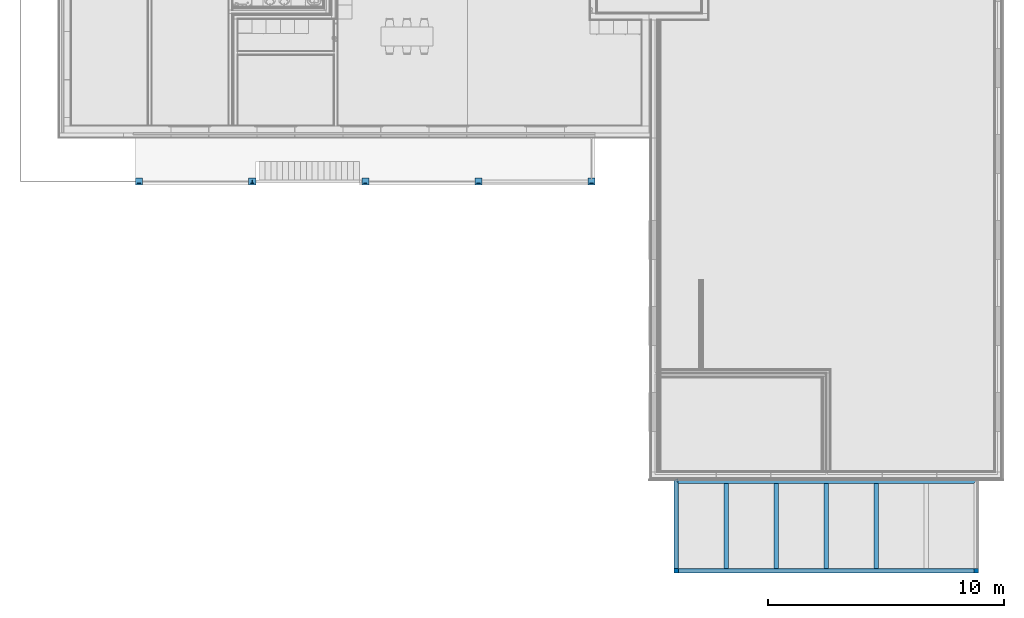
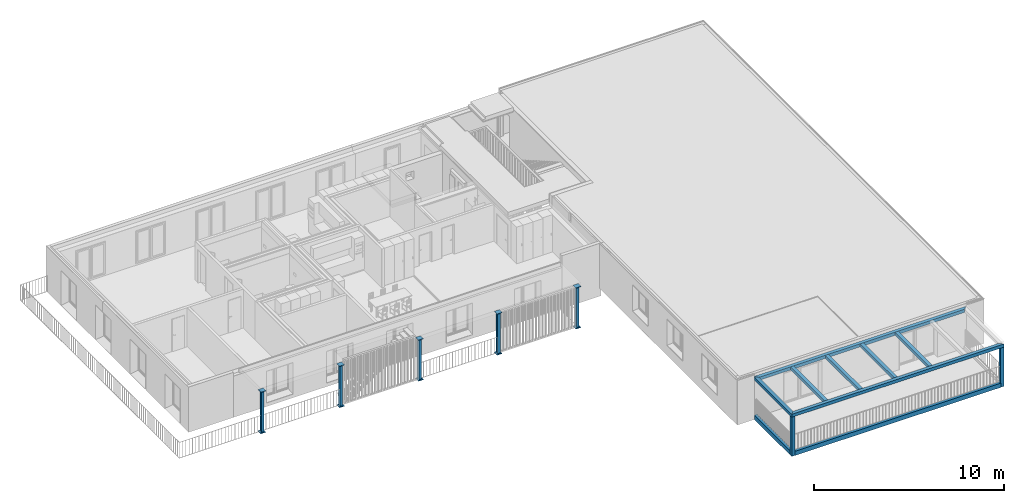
# One storey, part 1 of 34: 9 beams, 7 columns.
"""IFC4 building model written with IfcOpenShell, lengths in millimetres."""

import ifcopenshell
import ifcopenshell.guid

model = None  # the IFC model being written
_history = None  # IfcOwnerHistory: only IFC2X3 demands one
_inside = {}  # id of a spatial element -> (the spatial element, [elements in it])
_under = {}  # id of a project, library or spatial element -> (it, [spatial elements below it])
_declared = {}  # id of a project -> (the project, [libraries it declares])
_typed = {}  # id of a type object -> (the type object, [elements of that type])
_made_of = {}  # id of a material, layer set ... -> (it, [elements and type objects made of it])


def new_model(schema):
    """Start an empty IFC model of exactly this schema.

    Asked for "IFC4X3", IfcOpenShell would pick the latest addendum, in which some entities
    have other attributes; the version numbers below select the first issue.
    IFC2X3 requires an IfcOwnerHistory on every rooted entity: one is made here for all.
    """
    global model, _history
    if schema == "IFC4X3":
        model = ifcopenshell.file(schema_version=(4, 3, 0, 0))
    else:
        model = ifcopenshell.file(schema=schema)
    _inside.clear()
    _under.clear()
    _declared.clear()
    _typed.clear()
    _made_of.clear()
    _history = None
    if model.schema == "IFC2X3":
        org = make("IfcOrganization", Name="unknown")
        user = make(
            "IfcPersonAndOrganization",
            ThePerson=make("IfcPerson", FamilyName="unknown"),
            TheOrganization=org,
        )
        app = make(
            "IfcApplication",
            ApplicationDeveloper=org,
            Version="unknown",
            ApplicationFullName="unknown",
            ApplicationIdentifier="unknown",
        )
        _history = make(
            "IfcOwnerHistory",
            OwningUser=user,
            OwningApplication=app,
            ChangeAction="ADDED",
            CreationDate=0,
        )
    return model


def make(cls, **values):
    """One entity of the class cls with the attributes given. An attribute that is None is left unset."""
    return model.create_entity(
        cls, **{name: value for name, value in values.items() if value is not None}
    )


def entity(cls, *values):
    """Any entity or typed value of the class cls, its attributes in the order of the schema. None: left unset."""
    e = model.create_entity(cls)
    for i, value in enumerate(values):
        if value is not None:
            e[i] = value
    return e


def rooted(cls, **values):
    """An entity with a GlobalId (a new one), such as an element, a storey or a relation."""
    return make(cls, GlobalId=ifcopenshell.guid.new(), OwnerHistory=_history, **values)


def si_unit(unit_type, name, prefix=None):
    """IfcSIUnit, for example si_unit("LENGTHUNIT", "METRE", prefix="MILLI")."""
    return make("IfcSIUnit", UnitType=unit_type, Prefix=prefix, Name=name)


def converted_unit(unit_type, name, factor, base, dimensions=None, offset=None):
    """IfcConversionBasedUnit, such as the inch: factor (a typed value) times the base unit."""
    return make(
        "IfcConversionBasedUnit"
        if offset is None
        else "IfcConversionBasedUnitWithOffset",
        ConversionOffset=offset,
        Dimensions=None
        if dimensions is None
        else entity("IfcDimensionalExponents", *dimensions),
        UnitType=unit_type,
        Name=name,
        ConversionFactor=make(
            "IfcMeasureWithUnit", ValueComponent=factor, UnitComponent=base
        ),
    )


def derived_unit(unit_type, elements):
    """IfcDerivedUnit: a product of units, each with its exponent."""
    return make(
        "IfcDerivedUnit",
        Elements=[
            make("IfcDerivedUnitElement", Unit=unit, Exponent=power)
            for unit, power in elements
        ],
        UnitType=unit_type,
    )


def assignment(units):
    """IfcUnitAssignment: the units of a project."""
    return None if units is None else make("IfcUnitAssignment", Units=units)


def point(xyz):
    """IfcCartesianPoint."""
    return None if xyz is None else make("IfcCartesianPoint", Coordinates=xyz)


def direction(xyz):
    """IfcDirection."""
    return None if xyz is None else make("IfcDirection", DirectionRatios=xyz)


def frame(location, z_axis=None, x_axis=None):
    """IfcAxis2Placement3D, a coordinate frame: its origin and axes. An axis left out is left unset."""
    return make(
        "IfcAxis2Placement3D",
        Location=point(location),
        Axis=direction(z_axis),
        RefDirection=direction(x_axis),
    )


def origin_with_axes():
    """The frame at (0, 0, 0) with the z axis (0, 0, 1) and the x axis (1, 0, 0) written out."""
    return frame((0.0, 0.0, 0.0), z_axis=(0.0, 0.0, 1.0), x_axis=(1.0, 0.0, 0.0))


def place(relative_to, where):
    """IfcLocalPlacement: puts the frame where relative to a parent placement (None: the world)."""
    return make(
        "IfcLocalPlacement", PlacementRelTo=relative_to, RelativePlacement=where
    )


def context(
    kind, dimensions, precision=None, world=None, true_north=None, identifier=None
):
    """IfcGeometricRepresentationContext, for example the 3D "Model" context."""
    return make(
        "IfcGeometricRepresentationContext",
        ContextIdentifier=identifier,
        ContextType=kind,
        CoordinateSpaceDimension=dimensions,
        Precision=precision,
        WorldCoordinateSystem=world,
        TrueNorth=true_north,
    )


def subcontext(parent, identifier, kind, view, scale=None):
    """IfcGeometricRepresentationSubContext, for example "Body" below "Model"."""
    return make(
        "IfcGeometricRepresentationSubContext",
        ContextIdentifier=identifier,
        ContextType=kind,
        ParentContext=parent,
        TargetScale=scale,
        TargetView=view,
    )


def project(units=None, contexts=None):
    """IfcProject with its units and contexts."""
    return rooted(
        "IfcProject",
        Name="project",
        RepresentationContexts=contexts,
        UnitsInContext=assignment(units),
    )


def spatial(cls, under=None, at=None, **own):
    """A site, building, storey or space (cls), placed at a placement, below another one or the project."""
    s = rooted(cls, ObjectPlacement=at, **own)
    if under is not None:
        _under.setdefault(under.id(), (under, []))[1].append(s)
    return s


def point_list(points):
    """IfcCartesianPointList2D or 3D."""
    cls = (
        "IfcCartesianPointList2D" if len(points[0]) == 2 else "IfcCartesianPointList3D"
    )
    return make(cls, CoordList=points)


def polygons(points, faces, closed=None, point_numbers=None):
    """IfcPolygonalFaceSet: a face is its outer loop, then its inner loops; points numbered from 1."""
    made = []
    for loops in faces:
        if len(loops) == 1:
            made.append(make("IfcIndexedPolygonalFace", CoordIndex=loops[0]))
        else:
            made.append(
                make(
                    "IfcIndexedPolygonalFaceWithVoids",
                    CoordIndex=loops[0],
                    InnerCoordIndices=loops[1:],
                )
            )
    return make(
        "IfcPolygonalFaceSet",
        Coordinates=point_list(points),
        Closed=closed,
        Faces=made,
        PnIndex=point_numbers,
    )


def shape(context_of_items, identifier, shape_type, items):
    """IfcShapeRepresentation: the items that make up one representation, for example the "Body"."""
    return make(
        "IfcShapeRepresentation",
        ContextOfItems=context_of_items,
        RepresentationIdentifier=identifier,
        RepresentationType=shape_type,
        Items=items,
    )


def material(Name=None, Category=None):
    """IfcMaterial."""
    return make("IfcMaterial", Name=Name, Category=Category)


def constituent(of_material, Name=None, Category=None, fraction=None):
    """IfcMaterialConstituent: one of the materials an element consists of."""
    return make(
        "IfcMaterialConstituent",
        Name=Name,
        Material=of_material,
        Fraction=fraction,
        Category=Category,
    )


def constituent_set(constituents=None, Name=None):
    """IfcMaterialConstituentSet."""
    return make(
        "IfcMaterialConstituentSet", Name=Name, MaterialConstituents=constituents
    )


def made_of(thing, what):
    """Note that an element or type object is made of a material, layer set ...; save() writes the relation."""
    if what is not None:
        _made_of.setdefault(what.id(), (what, []))[1].append(thing)
    return thing


def type_object(cls, material=None, **own):
    """A type object (cls), such as IfcWallType, which elements share."""
    return made_of(rooted(cls, **own), material)


def element(
    cls,
    number,
    at=None,
    inside=None,
    cuts=None,
    type_object=None,
    material=None,
    context=None,
    identifier="Body",
    shape_type=None,
    held_by="IfcProductDefinitionShape",
    body=None,
    shapes=None,
    **own,
):
    """One element of the class cls, such as IfcWall. Its Tag is "e" and its number.

    at: its placement. inside: the storey or other place that contains it. cuts: it is an
    opening in that element (IfcRelVoidsElement). A single representation is given by context,
    identifier, shape_type and body (its items); several are given by shapes. held_by: the class
    of the entity that holds the representations. save() writes the other relations.
    """
    e = rooted(cls, Tag="e%d" % number, ObjectPlacement=at, **own)
    if body is not None:
        shapes = [shape(context, identifier, shape_type, body)]
    if shapes is not None:
        e.Representation = make(held_by, Representations=shapes)
    if inside is not None:
        _inside.setdefault(inside.id(), (inside, []))[1].append(e)
    if cuts is not None:
        rooted(
            "IfcRelVoidsElement", RelatingBuildingElement=cuts, RelatedOpeningElement=e
        )
    if type_object is not None:
        _typed.setdefault(type_object.id(), (type_object, []))[1].append(e)
    return made_of(e, material)


def aggregate(whole, parts):
    """IfcRelAggregates: a whole, such as a stair, and the parts it consists of."""
    return rooted("IfcRelAggregates", RelatingObject=whole, RelatedObjects=parts)


def save(model, path):
    """Write the relations noted so far, then the file.

    IfcRelAggregates (storeys below a building ...), IfcRelContainedInSpatialStructure (elements
    in a storey), IfcRelDefinesByType, IfcRelAssociatesMaterial and IfcRelDeclares: one each for
    every whole, place, type object, material and project.
    """
    for whole, parts in _under.values():
        aggregate(whole, parts)
    for where, things in _inside.values():
        rooted(
            "IfcRelContainedInSpatialStructure",
            RelatedElements=things,
            RelatingStructure=where,
        )
    for kind, things in _typed.values():
        rooted("IfcRelDefinesByType", RelatedObjects=things, RelatingType=kind)
    for what, things in _made_of.values():
        rooted("IfcRelAssociatesMaterial", RelatedObjects=things, RelatingMaterial=what)
    for by, libraries in _declared.values():
        rooted("IfcRelDeclares", RelatingContext=by, RelatedDefinitions=libraries)
    model.write(path)


model = new_model("IFC4")

# Units and contexts
model_context = context("Model", 3, precision=0.01, world=origin_with_axes(), true_north=direction((0.0, 1.0)))
body_context = subcontext(model_context, "Body", "Model", "MODEL_VIEW")
ifc_project = project(units=[si_unit("LENGTHUNIT", "METRE", prefix="MILLI"), si_unit("AREAUNIT", "SQUARE_METRE"), si_unit("VOLUMEUNIT", "CUBIC_METRE"), converted_unit("PLANEANGLEUNIT", "DEGREE", entity("IfcPlaneAngleMeasure", 0.0174532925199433), si_unit("PLANEANGLEUNIT", "RADIAN"), dimensions=[0, 0, 0, 0, 0, 0, 0]), converted_unit("TIMEUNIT", "Year", entity("IfcTimeMeasure", 31557600.0), si_unit("TIMEUNIT", "SECOND"), dimensions=[0, 0, 1, 0, 0, 0, 0]), si_unit("MASSUNIT", "GRAM", prefix="KILO"), si_unit("THERMODYNAMICTEMPERATUREUNIT", "DEGREE_CELSIUS"), si_unit("LUMINOUSINTENSITYUNIT", "LUMEN"), si_unit("ENERGYUNIT", "JOULE", prefix="MEGA"), derived_unit("THERMALCONDUCTANCEUNIT", [(si_unit("POWERUNIT", "WATT"), 1), (si_unit("LENGTHUNIT", "METRE"), -1), (si_unit("THERMODYNAMICTEMPERATUREUNIT", "KELVIN"), -1)]), derived_unit("SPECIFICHEATCAPACITYUNIT", [(si_unit("ENERGYUNIT", "JOULE"), 1), (si_unit("MASSUNIT", "GRAM", prefix="KILO"), -1), (si_unit("THERMODYNAMICTEMPERATUREUNIT", "KELVIN"), -1)]), derived_unit("MASSDENSITYUNIT", [(si_unit("MASSUNIT", "GRAM", prefix="KILO"), 1), (si_unit("VOLUMEUNIT", "CUBIC_METRE"), -1)])], contexts=[model_context])

# Site, building, storey
site_placement = place(None, origin_with_axes())
site = spatial("IfcSite", under=ifc_project, at=site_placement, Name="Gelände", CompositionType="ELEMENT")
building_placement = place(site_placement, origin_with_axes())
building = spatial("IfcBuilding", under=site, at=building_placement, Name="Gebäude", CompositionType="ELEMENT")
storey_placement = place(building_placement, frame((0.0, 0.0, 5799.999999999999), z_axis=(0.0, 0.0, 1.0), x_axis=(1.0, 0.0, 0.0)))
storey = spatial("IfcBuildingStorey", under=building, at=storey_placement, Name="2.OG", CompositionType="ELEMENT", Elevation=5800.0)

# Columns
ifc_material_1 = material(Name="Massivholz")
column_type_1 = type_object("IfcColumnType", Name="Massivholz 200 x 200", PredefinedType="NOTDEFINED")
column_1_placement = place(storey_placement, frame((31782.9974188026, 4618.59728131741, 499.9999481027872), z_axis=(0.0, 0.0, 1.0), x_axis=(1.0, 0.0, 0.0)))
element("IfcColumn", 1, at=column_1_placement, inside=storey, type_object=column_type_1, material=ifc_material_1, Name="Stütze-015", PredefinedType="NOTDEFINED", context=body_context, shape_type="Tessellation", body=[
    polygons([(100.0000000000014, 99.99999999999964, 2519.999947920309), (100.0000000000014, 99.99999999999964, 0.0), (-100.0000000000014, 99.99999999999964, 0.0), (-100.0000000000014, 99.99999999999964, 2519.999947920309), (100.0000000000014, -99.99999999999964, 2519.999947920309), (100.0000000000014, -99.99999999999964, 0.0), (-100.0000000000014, -99.99999999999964, 0.0), (-100.0000000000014, -99.99999999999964, 2519.999947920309)], [[[1, 2, 3, 4]], [[5, 6, 2, 1]], [[3, 2, 6, 7]], [[4, 3, 7, 8]], [[5, 1, 4, 8]], [[8, 7, 6, 5]]], closed=True),
])
column_2_placement = place(storey_placement, frame((19074.99747005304, 4618.59728131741, 499.9999481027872), z_axis=(0.0, 0.0, 1.0), x_axis=(1.0, 0.0, 0.0)))
element("IfcColumn", 2, at=column_2_placement, inside=storey, type_object=column_type_1, material=ifc_material_1, Name="Stütze-015", PredefinedType="NOTDEFINED", context=body_context, shape_type="Tessellation", body=[
    polygons([(-100.0000000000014, -99.99999999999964, 2519.999947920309), (-100.0000000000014, -99.99999999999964, 0.0), (100.0000000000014, -99.99999999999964, 0.0), (100.0000000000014, -99.99999999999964, 2519.999947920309), (-100.0000000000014, 99.99999999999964, 2519.999947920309), (-100.0000000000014, 99.99999999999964, 0.0), (100.0000000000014, 99.99999999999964, 0.0), (100.0000000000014, 99.99999999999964, 2519.999947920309)], [[[1, 2, 3, 4]], [[5, 6, 2, 1]], [[3, 2, 6, 7]], [[4, 3, 7, 8]], [[5, 1, 4, 8]], [[8, 7, 6, 5]]], closed=True),
])
ifc_material_2 = material(Name="Stahl")
ifc_constituent_1 = constituent(ifc_material_2, Name="Stahl 1")
ifc_constituent_2 = constituent(ifc_material_2, Name="Stahl 2")
ifc_constituent_3 = constituent(ifc_material_2, Name="Stahl 3")
ifc_constituent_set_1 = constituent_set(constituents=[ifc_constituent_1, ifc_constituent_2, ifc_constituent_3])
column_type_2 = type_object("IfcColumnType", Name="Verschiedene Strukturen - 3 Segmente - 300 x 300 x 2650 (30+2590+30)", PredefinedType="NOTDEFINED")
column_3_placement = place(storey_placement, frame((15487.99581849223, 21097.59674077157, 0.0), z_axis=(0.0, 0.0, 1.0), x_axis=(1.0, 0.0, 0.0)))
element("IfcColumn", 3, at=column_3_placement, inside=storey, type_object=column_type_2, material=ifc_constituent_set_1, Name="Stütze-015", PredefinedType="NOTDEFINED", context=body_context, shape_type="Tessellation", body=[
    polygons([(-150.0000000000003, -149.9999999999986, 30.00000000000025), (-150.0000000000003, -149.9999999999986, 0.0), (150.0000000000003, -149.9999999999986, 0.0), (150.0000000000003, -149.9999999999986, 30.00000000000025), (-150.0000000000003, 149.9999999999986, 30.00000000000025), (-150.0000000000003, 149.9999999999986, 0.0), (150.0000000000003, 149.9999999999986, 0.0), (150.0000000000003, 149.9999999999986, 30.00000000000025)], [[[1, 2, 3, 4]], [[5, 6, 2, 1]], [[3, 2, 6, 7]], [[4, 3, 7, 8]], [[5, 1, 4, 8]], [[8, 7, 6, 5]]], closed=True),
    polygons([(-80.00000000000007, 76.00000000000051, 2619.999948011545), (-80.00000000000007, 76.00000000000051, 30.00000000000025), (-80.00000000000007, 67.00000000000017, 30.00000000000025), (-80.00000000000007, 67.00000000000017, 2619.999948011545), (80.00000000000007, 76.00000000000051, 2619.999948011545), (80.00000000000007, 76.00000000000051, 30.00000000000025), (80.00000000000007, 67.00000000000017, 30.00000000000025), (3.000000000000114, 67.00000000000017, 30.00000000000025), (3.000000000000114, -67.00000000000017, 30.00000000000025), (80.00000000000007, -67.00000000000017, 30.00000000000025), (80.00000000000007, -76.00000000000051, 30.00000000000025), (-80.00000000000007, -76.00000000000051, 30.00000000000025), (-80.00000000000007, -67.00000000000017, 30.00000000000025), (-3.000000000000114, -67.00000000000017, 30.00000000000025), (-3.000000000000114, 67.00000000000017, 30.00000000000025), (-3.000000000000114, 67.00000000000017, 2619.999948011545), (-3.000000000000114, -67.00000000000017, 2619.999948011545), (-80.00000000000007, -67.00000000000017, 2619.999948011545), (-80.00000000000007, -76.00000000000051, 2619.999948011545), (80.00000000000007, -76.00000000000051, 2619.999948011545), (80.00000000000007, -67.00000000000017, 2619.999948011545), (3.000000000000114, -67.00000000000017, 2619.999948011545), (3.000000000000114, 67.00000000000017, 2619.999948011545), (80.00000000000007, 67.00000000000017, 2619.999948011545)], [[[1, 2, 3, 4]], [[5, 6, 2, 1]], [[3, 2, 6, 7, 8, 9, 10, 11, 12, 13, 14, 15]], [[4, 3, 15, 16]], [[5, 1, 4, 16, 17, 18, 19, 20, 21, 22, 23, 24]], [[24, 7, 6, 5]], [[23, 8, 7, 24]], [[22, 9, 8, 23]], [[21, 10, 9, 22]], [[20, 11, 10, 21]], [[19, 12, 11, 20]], [[18, 13, 12, 19]], [[17, 14, 13, 18]], [[16, 15, 14, 17]]], closed=True),
    polygons([(-150.0000000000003, -149.9999999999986, 2649.999948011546), (-150.0000000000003, -149.9999999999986, 2619.999948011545), (150.0000000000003, -149.9999999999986, 2619.999948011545), (150.0000000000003, -149.9999999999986, 2649.999948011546), (-150.0000000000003, 149.9999999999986, 2649.999948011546), (-150.0000000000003, 149.9999999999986, 2619.999948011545), (150.0000000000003, 149.9999999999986, 2619.999948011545), (150.0000000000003, 149.9999999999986, 2649.999948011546)], [[[1, 2, 3, 4]], [[5, 6, 2, 1]], [[3, 2, 6, 7]], [[4, 3, 7, 8]], [[5, 1, 4, 8]], [[8, 7, 6, 5]]], closed=True),
])
ifc_constituent_4 = constituent(ifc_material_2, Name="Stahl 1")
ifc_constituent_5 = constituent(ifc_material_2, Name="Stahl 2")
ifc_constituent_6 = constituent(ifc_material_2, Name="Stahl 3")
ifc_constituent_set_2 = constituent_set(constituents=[ifc_constituent_4, ifc_constituent_5, ifc_constituent_6])
column_4_placement = place(storey_placement, frame((10697.19581849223, 21097.59674077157, 0.0), z_axis=(0.0, 0.0, 1.0), x_axis=(1.0, 0.0, 0.0)))
element("IfcColumn", 4, at=column_4_placement, inside=storey, type_object=column_type_2, material=ifc_constituent_set_2, Name="Stütze-015", PredefinedType="NOTDEFINED", context=body_context, shape_type="Tessellation", body=[
    polygons([(-150.0000000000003, -149.9999999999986, 30.00000000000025), (-150.0000000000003, -149.9999999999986, 0.0), (150.0000000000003, -149.9999999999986, 0.0), (150.0000000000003, -149.9999999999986, 30.00000000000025), (-150.0000000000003, 149.9999999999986, 30.00000000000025), (-150.0000000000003, 149.9999999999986, 0.0), (150.0000000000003, 149.9999999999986, 0.0), (150.0000000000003, 149.9999999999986, 30.00000000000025)], [[[1, 2, 3, 4]], [[5, 6, 2, 1]], [[3, 2, 6, 7]], [[4, 3, 7, 8]], [[5, 1, 4, 8]], [[8, 7, 6, 5]]], closed=True),
    polygons([(-80.00000000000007, 76.00000000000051, 2619.999948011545), (-80.00000000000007, 76.00000000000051, 30.00000000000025), (-80.00000000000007, 67.00000000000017, 30.00000000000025), (-80.00000000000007, 67.00000000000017, 2619.999948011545), (80.00000000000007, 76.00000000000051, 2619.999948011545), (80.00000000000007, 76.00000000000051, 30.00000000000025), (80.00000000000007, 67.00000000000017, 30.00000000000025), (3.000000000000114, 67.00000000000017, 30.00000000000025), (3.000000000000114, -67.00000000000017, 30.00000000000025), (80.00000000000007, -67.00000000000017, 30.00000000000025), (80.00000000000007, -76.00000000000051, 30.00000000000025), (-80.00000000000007, -76.00000000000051, 30.00000000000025), (-80.00000000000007, -67.00000000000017, 30.00000000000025), (-3.000000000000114, -67.00000000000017, 30.00000000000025), (-3.000000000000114, 67.00000000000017, 30.00000000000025), (-3.000000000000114, 67.00000000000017, 2619.999948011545), (-3.000000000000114, -67.00000000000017, 2619.999948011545), (-80.00000000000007, -67.00000000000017, 2619.999948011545), (-80.00000000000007, -76.00000000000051, 2619.999948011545), (80.00000000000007, -76.00000000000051, 2619.999948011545), (80.00000000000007, -67.00000000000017, 2619.999948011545), (3.000000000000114, -67.00000000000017, 2619.999948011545), (3.000000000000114, 67.00000000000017, 2619.999948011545), (80.00000000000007, 67.00000000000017, 2619.999948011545)], [[[1, 2, 3, 4]], [[5, 6, 2, 1]], [[3, 2, 6, 7, 8, 9, 10, 11, 12, 13, 14, 15]], [[4, 3, 15, 16]], [[5, 1, 4, 16, 17, 18, 19, 20, 21, 22, 23, 24]], [[24, 7, 6, 5]], [[23, 8, 7, 24]], [[22, 9, 8, 23]], [[21, 10, 9, 22]], [[20, 11, 10, 21]], [[19, 12, 11, 20]], [[18, 13, 12, 19]], [[17, 14, 13, 18]], [[16, 15, 14, 17]]], closed=True),
    polygons([(-150.0000000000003, -149.9999999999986, 2649.999948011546), (-150.0000000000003, -149.9999999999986, 2619.999948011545), (150.0000000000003, -149.9999999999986, 2619.999948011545), (150.0000000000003, -149.9999999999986, 2649.999948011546), (-150.0000000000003, 149.9999999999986, 2649.999948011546), (-150.0000000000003, 149.9999999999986, 2619.999948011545), (150.0000000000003, 149.9999999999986, 2619.999948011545), (150.0000000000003, 149.9999999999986, 2649.999948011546)], [[[1, 2, 3, 4]], [[5, 6, 2, 1]], [[3, 2, 6, 7]], [[4, 3, 7, 8]], [[5, 1, 4, 8]], [[8, 7, 6, 5]]], closed=True),
])
ifc_constituent_7 = constituent(ifc_material_2, Name="Stahl 1")
ifc_constituent_8 = constituent(ifc_material_2, Name="Stahl 2")
ifc_constituent_9 = constituent(ifc_material_2, Name="Stahl 3")
ifc_constituent_set_3 = constituent_set(constituents=[ifc_constituent_7, ifc_constituent_8, ifc_constituent_9])
column_5_placement = place(storey_placement, frame((5906.39581849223, 21097.59674077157, 0.0), z_axis=(0.0, 0.0, 1.0), x_axis=(1.0, 0.0, 0.0)))
element("IfcColumn", 5, at=column_5_placement, inside=storey, type_object=column_type_2, material=ifc_constituent_set_3, Name="Stütze-015", PredefinedType="NOTDEFINED", context=body_context, shape_type="Tessellation", body=[
    polygons([(-150.0000000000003, -149.9999999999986, 30.00000000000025), (-150.0000000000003, -149.9999999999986, 0.0), (150.0000000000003, -149.9999999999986, 0.0), (150.0000000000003, -149.9999999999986, 30.00000000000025), (-150.0000000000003, 149.9999999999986, 30.00000000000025), (-150.0000000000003, 149.9999999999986, 0.0), (150.0000000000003, 149.9999999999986, 0.0), (150.0000000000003, 149.9999999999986, 30.00000000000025)], [[[1, 2, 3, 4]], [[5, 6, 2, 1]], [[3, 2, 6, 7]], [[4, 3, 7, 8]], [[5, 1, 4, 8]], [[8, 7, 6, 5]]], closed=True),
    polygons([(-80.00000000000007, 76.00000000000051, 2619.999999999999), (-80.00000000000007, 76.00000000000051, 30.00000000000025), (-80.00000000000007, 67.00000000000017, 30.00000000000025), (-80.00000000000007, 67.00000000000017, 2619.999999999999), (80.00000000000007, 76.00000000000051, 2619.999999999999), (80.00000000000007, 76.00000000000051, 30.00000000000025), (80.00000000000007, 67.00000000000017, 30.00000000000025), (3.000000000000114, 67.00000000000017, 30.00000000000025), (3.000000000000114, -67.00000000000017, 30.00000000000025), (80.00000000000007, -67.00000000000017, 30.00000000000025), (80.00000000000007, -76.00000000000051, 30.00000000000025), (-80.00000000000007, -76.00000000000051, 30.00000000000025), (-80.00000000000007, -67.00000000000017, 30.00000000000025), (-3.000000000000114, -67.00000000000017, 30.00000000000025), (-3.000000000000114, 67.00000000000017, 30.00000000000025), (-3.000000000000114, 67.00000000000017, 2619.999999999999), (-3.000000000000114, -67.00000000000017, 2619.999999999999), (-80.00000000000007, -67.00000000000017, 2619.999999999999), (-80.00000000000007, -76.00000000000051, 2619.999999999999), (80.00000000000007, -76.00000000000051, 2619.999999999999), (80.00000000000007, -67.00000000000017, 2619.999999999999), (3.000000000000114, -67.00000000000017, 2619.999999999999), (3.000000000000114, 67.00000000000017, 2619.999999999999), (80.00000000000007, 67.00000000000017, 2619.999999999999)], [[[1, 2, 3, 4]], [[5, 6, 2, 1]], [[3, 2, 6, 7, 8, 9, 10, 11, 12, 13, 14, 15]], [[4, 3, 15, 16]], [[5, 1, 4, 16, 17, 18, 19, 20, 21, 22, 23, 24]], [[24, 7, 6, 5]], [[23, 8, 7, 24]], [[22, 9, 8, 23]], [[21, 10, 9, 22]], [[20, 11, 10, 21]], [[19, 12, 11, 20]], [[18, 13, 12, 19]], [[17, 14, 13, 18]], [[16, 15, 14, 17]]], closed=True),
    polygons([(-150.0000000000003, -149.9999999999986, 2649.999999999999), (-150.0000000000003, -149.9999999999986, 2619.999999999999), (150.0000000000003, -149.9999999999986, 2619.999999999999), (150.0000000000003, -149.9999999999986, 2649.999999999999), (-150.0000000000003, 149.9999999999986, 2649.999999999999), (-150.0000000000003, 149.9999999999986, 2619.999999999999), (150.0000000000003, 149.9999999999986, 2619.999999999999), (150.0000000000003, 149.9999999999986, 2649.999999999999)], [[[1, 2, 3, 4]], [[5, 6, 2, 1]], [[3, 2, 6, 7]], [[4, 3, 7, 8]], [[5, 1, 4, 8]], [[8, 7, 6, 5]]], closed=True),
])
ifc_constituent_10 = constituent(ifc_material_2, Name="Stahl 1")
ifc_constituent_11 = constituent(ifc_material_2, Name="Stahl 2")
ifc_constituent_12 = constituent(ifc_material_2, Name="Stahl 3")
ifc_constituent_set_4 = constituent_set(constituents=[ifc_constituent_10, ifc_constituent_11, ifc_constituent_12])
column_type_3 = type_object("IfcColumnType", Name="Verschiedene Strukturen - 3 Segmente - 300 x 300 x 2680 (30+2620+30)", PredefinedType="NOTDEFINED")
column_6_placement = place(storey_placement, frame((1115.595818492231, 21097.59674077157, -30.00005198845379), z_axis=(0.0, 0.0, 1.0), x_axis=(1.0, 0.0, 0.0)))
element("IfcColumn", 6, at=column_6_placement, inside=storey, type_object=column_type_3, material=ifc_constituent_set_4, Name="Stütze-015", PredefinedType="NOTDEFINED", context=body_context, shape_type="Tessellation", body=[
    polygons([(-149.9999999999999, -149.9999999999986, 30.00000000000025), (-149.9999999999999, -149.9999999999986, 0.0), (149.9999999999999, -149.9999999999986, 0.0), (149.9999999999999, -149.9999999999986, 30.00000000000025), (-149.9999999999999, 149.9999999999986, 30.00000000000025), (-149.9999999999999, 149.9999999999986, 0.0), (149.9999999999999, 149.9999999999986, 0.0), (149.9999999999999, 149.9999999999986, 30.00000000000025)], [[[1, 2, 3, 4]], [[5, 6, 2, 1]], [[3, 2, 6, 7]], [[4, 3, 7, 8]], [[5, 1, 4, 8]], [[8, 7, 6, 5]]], closed=True),
    polygons([(-80.00000000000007, 76.00000000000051, 2649.999999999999), (-80.00000000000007, 76.00000000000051, 30.00000000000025), (-80.00000000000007, 67.00000000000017, 30.00000000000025), (-80.00000000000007, 67.00000000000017, 2649.999999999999), (80.00000000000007, 76.00000000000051, 2649.999999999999), (80.00000000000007, 76.00000000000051, 30.00000000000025), (80.00000000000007, 67.00000000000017, 30.00000000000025), (2.999999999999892, 67.00000000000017, 30.00000000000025), (2.999999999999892, -67.00000000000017, 30.00000000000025), (80.00000000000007, -67.00000000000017, 30.00000000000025), (80.00000000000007, -76.00000000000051, 30.00000000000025), (-80.00000000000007, -76.00000000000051, 30.00000000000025), (-80.00000000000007, -67.00000000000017, 30.00000000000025), (-2.999999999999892, -67.00000000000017, 30.00000000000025), (-2.999999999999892, 67.00000000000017, 30.00000000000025), (-2.999999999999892, 67.00000000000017, 2649.999999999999), (-2.999999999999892, -67.00000000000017, 2649.999999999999), (-80.00000000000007, -67.00000000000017, 2649.999999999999), (-80.00000000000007, -76.00000000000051, 2649.999999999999), (80.00000000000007, -76.00000000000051, 2649.999999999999), (80.00000000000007, -67.00000000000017, 2649.999999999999), (2.999999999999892, -67.00000000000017, 2649.999999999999), (2.999999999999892, 67.00000000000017, 2649.999999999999), (80.00000000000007, 67.00000000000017, 2649.999999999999)], [[[1, 2, 3, 4]], [[5, 6, 2, 1]], [[3, 2, 6, 7, 8, 9, 10, 11, 12, 13, 14, 15]], [[4, 3, 15, 16]], [[5, 1, 4, 16, 17, 18, 19, 20, 21, 22, 23, 24]], [[24, 7, 6, 5]], [[23, 8, 7, 24]], [[22, 9, 8, 23]], [[21, 10, 9, 22]], [[20, 11, 10, 21]], [[19, 12, 11, 20]], [[18, 13, 12, 19]], [[17, 14, 13, 18]], [[16, 15, 14, 17]]], closed=True),
    polygons([(-149.9999999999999, -149.9999999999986, 2680.0), (-149.9999999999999, -149.9999999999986, 2649.999999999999), (149.9999999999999, -149.9999999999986, 2649.999999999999), (149.9999999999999, -149.9999999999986, 2680.0), (-149.9999999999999, 149.9999999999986, 2680.0), (-149.9999999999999, 149.9999999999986, 2649.999999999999), (149.9999999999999, 149.9999999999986, 2649.999999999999), (149.9999999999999, 149.9999999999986, 2680.0)], [[[1, 2, 3, 4]], [[5, 6, 2, 1]], [[3, 2, 6, 7]], [[4, 3, 7, 8]], [[5, 1, 4, 8]], [[8, 7, 6, 5]]], closed=True),
])
ifc_constituent_13 = constituent(ifc_material_2, Name="Stahl 1")
ifc_constituent_14 = constituent(ifc_material_2, Name="Stahl 2")
ifc_constituent_15 = constituent(ifc_material_2, Name="Stahl 3")
ifc_constituent_set_5 = constituent_set(constituents=[ifc_constituent_13, ifc_constituent_14, ifc_constituent_15])
column_7_placement = place(storey_placement, frame((-3675.204181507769, 21097.59674077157, -30.00000000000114), z_axis=(0.0, 0.0, 1.0), x_axis=(1.0, 0.0, 0.0)))
element("IfcColumn", 7, at=column_7_placement, inside=storey, type_object=column_type_3, material=ifc_constituent_set_5, Name="Stütze-015", PredefinedType="NOTDEFINED", context=body_context, shape_type="Tessellation", body=[
    polygons([(-149.9999999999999, -149.9999999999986, 30.00000000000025), (-149.9999999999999, -149.9999999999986, 0.0), (149.9999999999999, -149.9999999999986, 0.0), (149.9999999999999, -149.9999999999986, 30.00000000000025), (-149.9999999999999, 149.9999999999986, 30.00000000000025), (-149.9999999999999, 149.9999999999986, 0.0), (149.9999999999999, 149.9999999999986, 0.0), (149.9999999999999, 149.9999999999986, 30.00000000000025)], [[[1, 2, 3, 4]], [[5, 6, 2, 1]], [[3, 2, 6, 7]], [[4, 3, 7, 8]], [[5, 1, 4, 8]], [[8, 7, 6, 5]]], closed=True),
    polygons([(-80.00000000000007, 76.00000000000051, 2649.999999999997), (-80.00000000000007, 76.00000000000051, 30.00000000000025), (-80.00000000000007, 67.00000000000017, 30.00000000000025), (-80.00000000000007, 67.00000000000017, 2649.999999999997), (80.00000000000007, 76.00000000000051, 2649.999999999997), (80.00000000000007, 76.00000000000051, 30.00000000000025), (80.00000000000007, 67.00000000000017, 30.00000000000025), (3.000000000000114, 67.00000000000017, 30.00000000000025), (3.000000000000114, -67.00000000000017, 30.00000000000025), (80.00000000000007, -67.00000000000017, 30.00000000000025), (80.00000000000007, -76.00000000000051, 30.00000000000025), (-80.00000000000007, -76.00000000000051, 30.00000000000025), (-80.00000000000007, -67.00000000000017, 30.00000000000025), (-3.000000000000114, -67.00000000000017, 30.00000000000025), (-3.000000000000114, 67.00000000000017, 30.00000000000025), (-3.000000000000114, 67.00000000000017, 2649.999999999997), (-3.000000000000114, -67.00000000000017, 2649.999999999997), (-80.00000000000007, -67.00000000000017, 2649.999999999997), (-80.00000000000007, -76.00000000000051, 2649.999999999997), (80.00000000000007, -76.00000000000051, 2649.999999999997), (80.00000000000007, -67.00000000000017, 2649.999999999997), (3.000000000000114, -67.00000000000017, 2649.999999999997), (3.000000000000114, 67.00000000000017, 2649.999999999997), (80.00000000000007, 67.00000000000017, 2649.999999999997)], [[[1, 2, 3, 4]], [[5, 6, 2, 1]], [[3, 2, 6, 7, 8, 9, 10, 11, 12, 13, 14, 15]], [[4, 3, 15, 16]], [[5, 1, 4, 16, 17, 18, 19, 20, 21, 22, 23, 24]], [[24, 7, 6, 5]], [[23, 8, 7, 24]], [[22, 9, 8, 23]], [[21, 10, 9, 22]], [[20, 11, 10, 21]], [[19, 12, 11, 20]], [[18, 13, 12, 19]], [[17, 14, 13, 18]], [[16, 15, 14, 17]]], closed=True),
    polygons([(-149.9999999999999, -149.9999999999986, 2679.999999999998), (-149.9999999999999, -149.9999999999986, 2649.999999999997), (149.9999999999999, -149.9999999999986, 2649.999999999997), (149.9999999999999, -149.9999999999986, 2679.999999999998), (-149.9999999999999, 149.9999999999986, 2679.999999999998), (-149.9999999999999, 149.9999999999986, 2649.999999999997), (149.9999999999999, 149.9999999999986, 2649.999999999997), (149.9999999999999, 149.9999999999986, 2679.999999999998)], [[[1, 2, 3, 4]], [[5, 6, 2, 1]], [[3, 2, 6, 7]], [[4, 3, 7, 8]], [[5, 1, 4, 8]], [[8, 7, 6, 5]]], closed=True),
])

# Beams
beam_type_1 = type_object("IfcBeamType", Name="Massivholz 200 x 200", PredefinedType="NOTDEFINED")
beam_1_placement = place(storey_placement, frame((25428.99744456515, 8318.597281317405, 3219.999948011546), z_axis=(0.0, 0.0, 1.0), x_axis=(-1.0, 0.0, 0.0)))
element("IfcBeam", 8, at=beam_1_placement, inside=storey, type_object=beam_type_1, material=ifc_material_1, Name="Unterzug-027", PredefinedType="NOTDEFINED", context=body_context, shape_type="Tessellation", body=[
    polygons([(-100.0000000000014, 0.0, -199.9999999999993), (-100.0000000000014, 3599.999999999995, -199.9999999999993), (99.99999999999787, 3599.999999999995, -199.9999999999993), (100.0000000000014, 0.0, -199.9999999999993), (-100.0000000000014, 0.0, 0.0), (-100.0000000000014, 3599.999999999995, 0.0), (99.99999999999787, 3599.999999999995, 0.0), (100.0000000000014, 0.0, 0.0)], [[[1, 2, 3, 4]], [[5, 6, 2, 1]], [[3, 2, 6, 7]], [[4, 3, 7, 8]], [[5, 1, 4, 8]], [[8, 7, 6, 5]]], closed=True),
])
beam_2_placement = place(storey_placement, frame((31872.41342913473, 8518.597281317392, 3219.999895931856), z_axis=(0.0, 0.0, 1.0), x_axis=(0.0, 1.0, 0.0)))
element("IfcBeam", 9, at=beam_2_placement, inside=storey, type_object=beam_type_1, material=ifc_material_1, Name="Unterzug-027", PredefinedType="NOTDEFINED", context=body_context, shape_type="Tessellation", body=[
    polygons([(-199.9999999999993, 199.9999999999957, -199.9999999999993), (-200.0000000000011, 12697.41595908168, -199.9999999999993), (0.0, 12897.41595908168, -199.9999999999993), (0.0, 0.0, -199.9999999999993), (-199.9999999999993, 199.9999999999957, 0.0), (-200.0000000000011, 12697.41595908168, 0.0), (0.0, 12897.41595908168, 0.0), (0.0, 0.0, 0.0)], [[[1, 2, 3, 4]], [[5, 6, 2, 1]], [[3, 2, 6, 7]], [[4, 3, 7, 8]], [[5, 1, 4, 8]], [[8, 7, 6, 5]]], closed=True),
])
beam_3_placement = place(storey_placement, frame((21192.99747005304, 8318.597281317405, 3219.999948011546), z_axis=(0.0, 0.0, 1.0), x_axis=(-1.0, 0.0, 0.0)))
element("IfcBeam", 10, at=beam_3_placement, inside=storey, type_object=beam_type_1, material=ifc_material_1, Name="Unterzug-027", PredefinedType="NOTDEFINED", context=body_context, shape_type="Tessellation", body=[
    polygons([(-100.0000000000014, 0.0, -199.9999999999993), (-100.0000000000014, 3599.999999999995, -199.9999999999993), (99.99999999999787, 3599.999999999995, -199.9999999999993), (100.0000000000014, 0.0, -199.9999999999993), (-100.0000000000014, 0.0, 0.0), (-100.0000000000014, 3599.999999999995, 0.0), (99.99999999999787, 3599.999999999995, 0.0), (100.0000000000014, 0.0, 0.0)], [[[1, 2, 3, 4]], [[5, 6, 2, 1]], [[3, 2, 6, 7]], [[4, 3, 7, 8]], [[5, 1, 4, 8]], [[8, 7, 6, 5]]], closed=True),
])
beam_4_placement = place(storey_placement, frame((27546.99741907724, 8318.597281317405, 3219.999948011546), z_axis=(0.0, 0.0, 1.0), x_axis=(-1.0, 0.0, 0.0)))
element("IfcBeam", 11, at=beam_4_placement, inside=storey, type_object=beam_type_1, material=ifc_material_1, Name="Unterzug-027", PredefinedType="NOTDEFINED", context=body_context, shape_type="Tessellation", body=[
    polygons([(100.0000000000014, 0.0, 0.0), (99.99999999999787, 3599.999999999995, 0.0), (-100.0000000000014, 3599.999999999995, 0.0), (-100.0000000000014, 0.0, 0.0), (100.0000000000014, 0.0, -199.9999999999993), (99.99999999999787, 3599.999999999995, -199.9999999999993), (-100.0000000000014, 3599.999999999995, -199.9999999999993), (-100.0000000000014, 0.0, -199.9999999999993)], [[[1, 2, 3, 4]], [[5, 6, 2, 1]], [[3, 2, 6, 7]], [[4, 3, 7, 8]], [[5, 1, 4, 8]], [[8, 7, 6, 5]]], closed=True),
])
beam_5_placement = place(storey_placement, frame((23310.99747005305, 8318.597281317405, 3219.999948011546), z_axis=(0.0, 0.0, 1.0), x_axis=(-1.0, 0.0, 0.0)))
element("IfcBeam", 12, at=beam_5_placement, inside=storey, type_object=beam_type_1, material=ifc_material_1, Name="Unterzug-027", PredefinedType="NOTDEFINED", context=body_context, shape_type="Tessellation", body=[
    polygons([(-100.0000000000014, 0.0, -199.9999999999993), (-100.0000000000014, 3599.999999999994, -199.9999999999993), (99.99999999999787, 3599.999999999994, -199.9999999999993), (100.0000000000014, 0.0, -199.9999999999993), (-100.0000000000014, 0.0, 0.0), (-100.0000000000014, 3599.999999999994, 0.0), (99.99999999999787, 3599.999999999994, 0.0), (100.0000000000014, 0.0, 0.0)], [[[1, 2, 3, 4]], [[5, 6, 2, 1]], [[3, 2, 6, 7]], [[4, 3, 7, 8]], [[5, 1, 4, 8]], [[8, 7, 6, 5]]], closed=True),
])
beam_6_placement = place(storey_placement, frame((31872.41342913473, 4518.597281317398, 3219.999895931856), z_axis=(0.0, 0.0, 1.0), x_axis=(0.0, 1.0, 0.0)))
element("IfcBeam", 13, at=beam_6_placement, inside=storey, type_object=beam_type_1, material=ifc_material_1, Name="Unterzug-027", PredefinedType="NOTDEFINED", context=body_context, shape_type="Tessellation", body=[
    polygons([(199.9999999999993, 199.9999999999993, 0.0), (199.9999999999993, 12697.41595908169, 0.0), (0.0, 12897.41595908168, 0.0), (0.0, 0.0, 0.0), (199.9999999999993, 199.9999999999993, -199.9999999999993), (199.9999999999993, 12697.41595908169, -199.9999999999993), (0.0, 12897.41595908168, -199.9999999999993), (0.0, 0.0, -199.9999999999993)], [[[1, 2, 3, 4]], [[5, 6, 2, 1]], [[3, 2, 6, 7]], [[4, 3, 7, 8]], [[5, 1, 4, 8]], [[8, 7, 6, 5]]], closed=True),
])
beam_7_placement = place(storey_placement, frame((18974.99747005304, 8518.597281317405, 3219.999895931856), z_axis=(0.0, 0.0, 1.0), x_axis=(-1.0, 0.0, 0.0)))
element("IfcBeam", 14, at=beam_7_placement, inside=storey, type_object=beam_type_1, material=ifc_material_1, Name="Unterzug-027", PredefinedType="NOTDEFINED", context=body_context, shape_type="Tessellation", body=[
    polygons([(-199.9999999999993, 199.9999999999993, -199.9999999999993), (-199.9999999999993, 3799.999999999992, -199.9999999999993), (0.0, 3999.999999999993, -199.9999999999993), (0.0, 0.0, -199.9999999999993), (-199.9999999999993, 199.9999999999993, 0.0), (-199.9999999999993, 3799.999999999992, 0.0), (0.0, 3999.999999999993, 0.0), (0.0, 0.0, 0.0)], [[[1, 2, 3, 4]], [[5, 6, 2, 1]], [[3, 2, 6, 7]], [[4, 3, 7, 8]], [[5, 1, 4, 8]], [[8, 7, 6, 5]]], closed=True),
])
ifc_constituent_16 = constituent(ifc_material_2, Name="Stahl 1")
ifc_material_3 = material(Name="Vollholzwerkstoff")
ifc_constituent_17 = constituent(ifc_material_3, Name="Vollholzwerkstoff")
ifc_constituent_18 = constituent(ifc_material_2, Name="Stahl 2")
ifc_constituent_set_6 = constituent_set(constituents=[ifc_constituent_16, ifc_constituent_17, ifc_constituent_18], Name="Dachrand Typ 2")
beam_type_2 = type_object("IfcBeamType", Name="Dachrand Typ 2 172 x 269", PredefinedType="NOTDEFINED")
beam_8_placement = place(storey_placement, frame((31682.9974188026, 4518.597281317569, 500.0), z_axis=(0.0, 0.0, 1.0), x_axis=(0.0, 1.0, 0.0)))
element("IfcBeam", 15, at=beam_8_placement, inside=storey, type_object=beam_type_2, material=ifc_constituent_set_6, Name="Unterzug-028", PredefinedType="NOTDEFINED", context=body_context, shape_type="Tessellation", body=[
    polygons([(-2.86625320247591, 12507.99994874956, 266.1622942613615), (-4.866256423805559, 12507.99994874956, 266.3597288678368), (-4.866256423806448, 0.0, 266.3597288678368), (-2.86625320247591, 0.0, 266.1622942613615), (-2.86625320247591, 12507.99994874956, 0.0), (-4.866256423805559, 12507.99994874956, 0.0), (-4.866256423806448, 0.0, 0.0), (-2.86625320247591, 0.0, 0.0)], [[[1, 2, 3, 4]], [[1, 5, 6, 2]], [[2, 6, 7, 3]], [[4, 3, 7, 8]], [[5, 1, 4, 8]], [[6, 5, 8, 7]]], closed=True),
    polygons([(0.0, 12507.99994874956, 0.0), (163.2557800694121, 12507.99994874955, 0.0), (163.2557800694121, 0.0, 0.0), (0.0, 0.0, 0.0), (0.0, 12507.99994874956, 263.8696237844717), (163.2557800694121, 12507.99994874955, 247.7534740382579), (163.2557800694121, 0.0, 247.7534740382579), (0.0, 0.0, 263.8696237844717)], [[[1, 2, 3, 4]], [[1, 5, 6, 2]], [[2, 6, 7, 3]], [[4, 3, 7, 8]], [[5, 1, 4, 8]], [[6, 5, 8, 7]]], closed=True),
    polygons([(-4.866256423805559, 12507.99994874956, 266.3597286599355), (-2.86625320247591, 12507.99994874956, 266.1622942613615), (-2.86625320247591, 0.0, 266.1622942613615), (-4.866256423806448, 0.0, 266.3597286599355), (-4.866256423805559, 12507.99994874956, 269.0765727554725), (167.5570486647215, 12507.99994874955, 251.311436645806), (167.5570085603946, 12507.99994874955, 219.9999996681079), (165.4522595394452, 12507.99994874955, 219.9999996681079), (165.4522595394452, 12507.99994874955, 249.5463650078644), (165.4522595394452, 0.0, 249.5463650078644), (165.4522595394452, 0.0, 219.9999996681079), (167.5570085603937, 0.0, 219.9999996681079), (167.5570486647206, 0.0, 251.311436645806), (-4.866256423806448, 0.0, 269.0765727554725)], [[[1, 2, 3, 4]], [[1, 5, 6, 7, 8, 9, 2]], [[2, 9, 10, 3]], [[4, 3, 10, 11, 12, 13, 14]], [[5, 1, 4, 14]], [[6, 5, 14, 13]], [[7, 6, 13, 12]], [[8, 7, 12, 11]], [[9, 8, 11, 10]]], closed=True),
])
ifc_constituent_19 = constituent(ifc_material_2, Name="Stahl 1")
ifc_constituent_20 = constituent(ifc_material_3, Name="Vollholzwerkstoff")
ifc_constituent_21 = constituent(ifc_material_2, Name="Stahl 2")
ifc_constituent_set_7 = constituent_set(constituents=[ifc_constituent_19, ifc_constituent_20, ifc_constituent_21], Name="Dachrand Typ 2")
beam_9_placement = place(storey_placement, frame((18974.99747005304, 8518.597281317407, 500.0), z_axis=(0.0, 0.0, 1.0), x_axis=(-1.0, 0.0, 0.0)))
element("IfcBeam", 16, at=beam_9_placement, inside=storey, type_object=beam_type_2, material=ifc_constituent_set_7, Name="Unterzug-028", PredefinedType="NOTDEFINED", context=body_context, shape_type="Tessellation", body=[
    polygons([(2.866253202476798, 3799.999999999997, 0.0), (4.866256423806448, 3799.999999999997, 0.0), (4.866256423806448, 80.10479069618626, 0.0), (2.866253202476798, 79.17562488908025, 0.0), (2.866253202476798, 3799.999999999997, 266.1622942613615), (4.866256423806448, 3799.999999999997, 266.3597288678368), (4.866256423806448, 80.10479069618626, 266.3597288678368), (2.866253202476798, 79.17562488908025, 266.1622942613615)], [[[1, 2, 3, 4]], [[1, 5, 6, 2]], [[2, 6, 7, 3]], [[4, 3, 7, 8]], [[5, 1, 4, 8]], [[6, 5, 8, 7]]], closed=True),
    polygons([(0.0, 3799.999999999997, 263.8696237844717), (-163.255780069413, 3799.999999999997, 247.7534740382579), (-163.255780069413, 1.998292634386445, 247.7534740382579), (0.0, 77.84401479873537, 263.8696237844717), (0.0, 3799.999999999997, 0.0), (-163.255780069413, 3799.999999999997, 0.0), (-163.255780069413, 1.998292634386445, 0.0), (0.0, 77.84401479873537, 0.0)], [[[1, 2, 3, 4]], [[1, 5, 6, 2]], [[2, 6, 7, 3]], [[4, 3, 7, 8]], [[5, 1, 4, 8]], [[6, 5, 8, 7]]], closed=True),
    polygons([(4.866256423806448, 3799.999999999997, 269.0765727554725), (-167.5570486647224, 3799.999999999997, 251.311436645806), (-167.5570486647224, 0.0, 251.311436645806), (4.866256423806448, 80.10479069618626, 269.0765727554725), (4.866256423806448, 3799.999999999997, 266.3597286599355), (2.866253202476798, 3799.999999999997, 266.1622942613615), (-165.4522595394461, 3799.999999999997, 249.5463650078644), (-165.4522595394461, 3799.999999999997, 219.9999996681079), (-167.5570085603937, 3799.999999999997, 219.9999996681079), (-167.5570085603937, 1.863175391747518e-05, 219.9999996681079), (-165.4522595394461, 0.9778474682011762, 219.9999996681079), (-165.4522595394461, 0.9778474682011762, 249.5463650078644), (2.866253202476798, 79.17562488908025, 266.1622942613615), (4.866256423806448, 80.10479069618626, 266.3597286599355)], [[[1, 2, 3, 4]], [[1, 5, 6, 7, 8, 9, 2]], [[2, 9, 10, 3]], [[4, 3, 10, 11, 12, 13, 14]], [[5, 1, 4, 14]], [[6, 5, 14, 13]], [[7, 6, 13, 12]], [[8, 7, 12, 11]], [[9, 8, 11, 10]]], closed=True),
])

save(model, "model.ifc")
